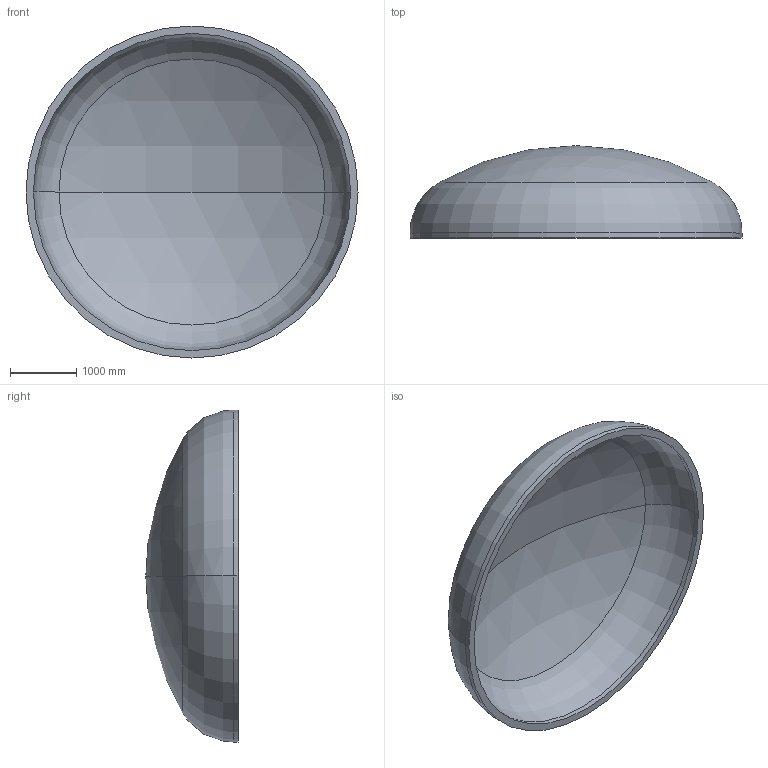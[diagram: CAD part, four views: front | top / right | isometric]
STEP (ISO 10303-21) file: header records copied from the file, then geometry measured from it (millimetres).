
FILE_DESCRIPTION (( 'STEP AP203' ), '1' );
FILE_NAME ('DIN 28013 Korbbogenform_-_Boden DIN 28013 - 5000 x 75 - I - s=112.step', '2016-07-02T01:00:34', ( '' ), ( '' ), 'SwSTEP 2.0', 'SolidWorks 2013', '' );
FILE_SCHEMA (( 'CONFIG_CONTROL_DESIGN' ));
Length unit declared in the file: millimetre
Products named in the file (1): DIN 28013 Korbbogenform_-_Boden DIN 28013 - 5000 x 75 - I - s=112
Bounding box: 5000 x 1391.47 x 5000 mm (x, y, z)
Volume: 3086378254.8 mm3; surface area: 56860033.3 mm2
Topology: 1 solids, 1 shells, 13 faces, 24 edges, 14 vertices
Faces by surface type: torus 4, cylinder 4, sphere 4, plane 1
Entity records: 407 total; most frequent: DIRECTION 72, CARTESIAN_POINT 52, ORIENTED_EDGE 48, AXIS2_PLACEMENT_3D 34, EDGE_CURVE 24, CIRCLE 20, EDGE_LOOP 14, VERTEX_POINT 14
